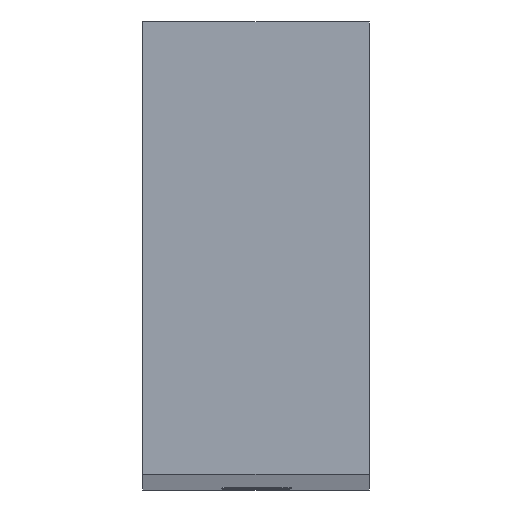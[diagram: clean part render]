
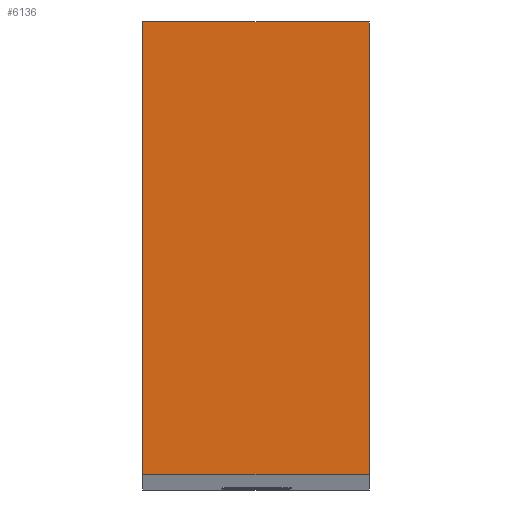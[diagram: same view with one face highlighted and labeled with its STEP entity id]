
A CAD part, top view. The second image highlights one B-rep face of the part: STEP entity #6136.
In plain terms, the highlighted planar face has unit normal (0, 0, 1).
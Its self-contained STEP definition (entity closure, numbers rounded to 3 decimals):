
#227 = VERTEX_POINT ( 'NONE', #2852 ) ;
#454 = FACE_OUTER_BOUND ( 'NONE', #2961, .T. ) ;
#528 = EDGE_CURVE ( 'NONE', #651, #3123, #2615, .T. ) ;
#614 = VECTOR ( 'NONE', #1693, 1000. ) ;
#651 = VERTEX_POINT ( 'NONE', #6282 ) ;
#667 = EDGE_CURVE ( 'NONE', #1420, #227, #4252, .T. ) ;
#1108 = EDGE_CURVE ( 'NONE', #3123, #1420, #6611, .T. ) ;
#1328 = AXIS2_PLACEMENT_3D ( 'NONE', #4056, #4972, #3478 ) ;
#1380 = PLANE ( 'NONE',  #1328 ) ;
#1420 = VERTEX_POINT ( 'NONE', #2817 ) ;
#1434 = DIRECTION ( 'NONE',  ( 0., 1., 0. ) ) ;
#1593 = ORIENTED_EDGE ( 'NONE', *, *, #667, .F. ) ;
#1693 = DIRECTION ( 'NONE',  ( -1., 0., 0. ) ) ;
#2016 = CARTESIAN_POINT ( 'NONE',  ( 200., -180., 436. ) ) ;
#2158 = CARTESIAN_POINT ( 'NONE',  ( 236., -160., 436. ) ) ;
#2165 = ORIENTED_EDGE ( 'NONE', *, *, #1108, .F. ) ;
#2615 = LINE ( 'NONE', #3627, #614 ) ;
#2710 = ORIENTED_EDGE ( 'NONE', *, *, #528, .F. ) ;
#2793 = VECTOR ( 'NONE', #1434, 1000. ) ;
#2817 = CARTESIAN_POINT ( 'NONE',  ( 200., -160., 436. ) ) ;
#2852 = CARTESIAN_POINT ( 'NONE',  ( 210., -160., 436. ) ) ;
#2961 = EDGE_LOOP ( 'NONE', ( #1593, #2165, #2710, #3072 ) ) ;
#3072 = ORIENTED_EDGE ( 'NONE', *, *, #6141, .F. ) ;
#3123 = VERTEX_POINT ( 'NONE', #6377 ) ;
#3444 = LINE ( 'NONE', #6624, #3705 ) ;
#3478 = DIRECTION ( 'NONE',  ( -1., 0., 0. ) ) ;
#3512 = DIRECTION ( 'NONE',  ( 0., -1., 0. ) ) ;
#3627 = CARTESIAN_POINT ( 'NONE',  ( 216., -180., 436. ) ) ;
#3705 = VECTOR ( 'NONE', #3512, 1000. ) ;
#4056 = CARTESIAN_POINT ( 'NONE',  ( 236., -200., 436. ) ) ;
#4252 = LINE ( 'NONE', #2158, #6603 ) ;
#4972 = DIRECTION ( 'NONE',  ( 0., 0., -1. ) ) ;
#5792 = DIRECTION ( 'NONE',  ( 1., 0., 0. ) ) ;
#6136 = ADVANCED_FACE ( 'NONE', ( #454 ), #1380, .F. ) ;
#6141 = EDGE_CURVE ( 'NONE', #227, #651, #3444, .T. ) ;
#6282 = CARTESIAN_POINT ( 'NONE',  ( 210., -180., 436. ) ) ;
#6377 = CARTESIAN_POINT ( 'NONE',  ( 200., -180., 436. ) ) ;
#6603 = VECTOR ( 'NONE', #5792, 1000. ) ;
#6611 = LINE ( 'NONE', #2016, #2793 ) ;
#6624 = CARTESIAN_POINT ( 'NONE',  ( 210., -200., 436. ) ) ;
